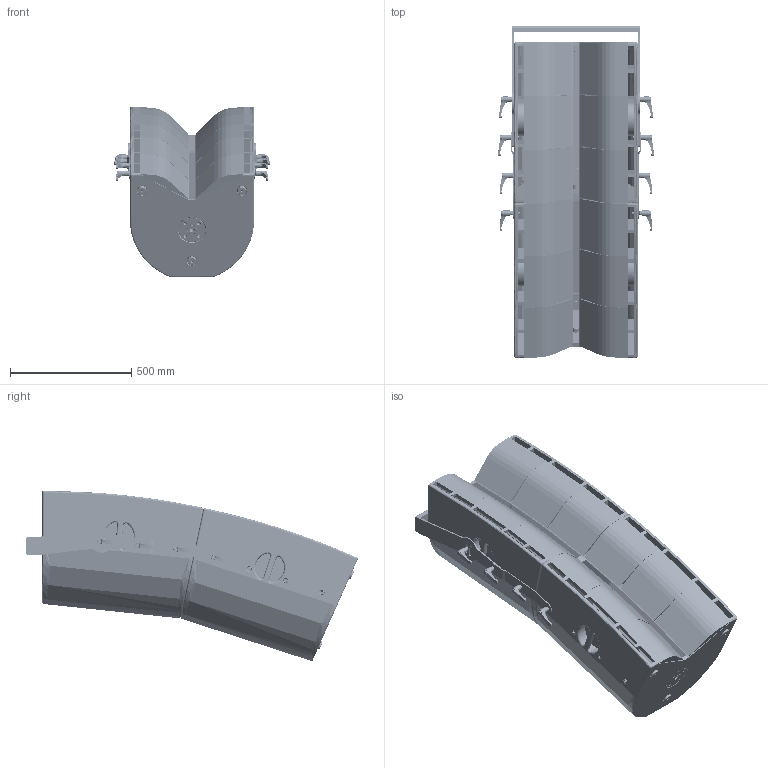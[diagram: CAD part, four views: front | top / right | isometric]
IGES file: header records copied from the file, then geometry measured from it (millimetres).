
Start section: SolidWorks IGES file using analytic representation for surfaces
Global section: file name: C:\Dokumente und Einstellungen\PC_Fabian\Desktop\G-Serie\G3_Stack_Bracket_01.IGS; native system: SolidWorks 2009; preprocessor: SolidWorks 2009; author: PC_Fabian; date: 121016.131651; units: millimetre
Bounding box: 641.25 x 1371.47 x 703.31 mm (x, y, z)
Surface area: 8050338.8 mm2 (no closed solid volume)
Topology: 0 solids, 0 shells, 2102 faces, 29260 edges, 29254 vertices
Faces by surface type: revolution 1070, bspline 1032
